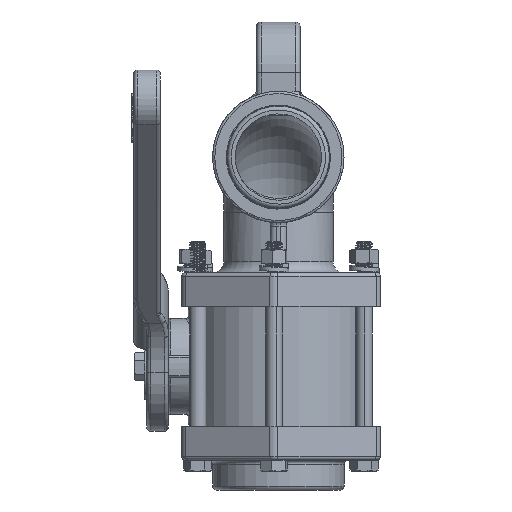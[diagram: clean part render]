
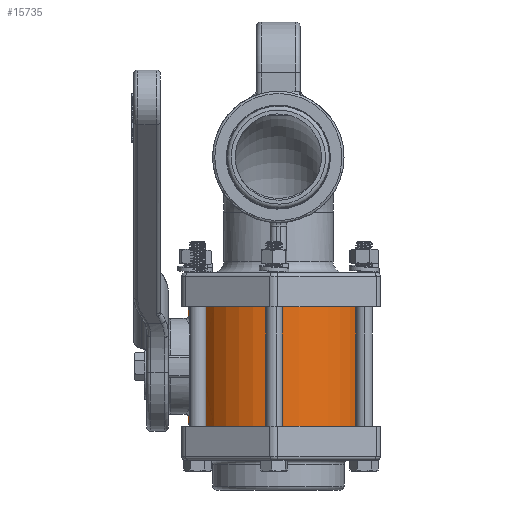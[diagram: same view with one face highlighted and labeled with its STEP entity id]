
A CAD part, front view. The second image highlights one B-rep face of the part: STEP entity #15735.
In plain terms, the highlighted cylindrical face has radius 52.222 mm (diameter 104.445 mm), a partial arc.
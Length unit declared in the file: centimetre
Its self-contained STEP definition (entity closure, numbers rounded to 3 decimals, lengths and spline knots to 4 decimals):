
#2859=B_SPLINE_CURVE_WITH_KNOTS('',3,(#21236,#21237,#21238,#21239,#21240,
#21241,#21242,#21243,#21244,#21245,#21246,#21247,#21248,#21249,#21250,#21251,
#21252,#21253,#21254,#21255,#21256,#21257,#21258,#21259,#21260,#21261),
 .UNSPECIFIED.,.T.,.U.,(4,2,2,2,2,2,2,2,2,2,2,2,4),(0.,0.6665,
1.7329,3.0771,4.7858,6.7271,7.8086,
8.89,10.412,12.469,14.4768,16.4365,
17.1601),.UNSPECIFIED.);
#2860=B_SPLINE_CURVE_WITH_KNOTS('',3,(#21263,#21264,#21265,#21266,#21267,
#21268,#21269,#21270,#21271,#21272,#21273,#21274,#21275,#21276,#21277,#21278,
#21279,#21280,#21281,#21282,#21283,#21284,#21285,#21286,#21287),
 .UNSPECIFIED.,.F.,.U.,(4,3,3,3,3,3,3,3,4),(0.4839,1.3329,
2.6255,3.4333,3.9383,4.4432,5.251,
6.5436,7.3927),.UNSPECIFIED.);
#2861=B_SPLINE_CURVE_WITH_KNOTS('',3,(#21292,#21293,#21294,#21295,#21296,
#21297,#21298,#21299,#21300,#21301,#21302,#21303,#21304,#21305,#21306,#21307,
#21308,#21309,#21310,#21311,#21312,#21313,#21314,#21315,#21316),
 .UNSPECIFIED.,.F.,.U.,(4,3,3,3,3,3,3,3,4),(0.4826,1.3325,2.6247,
3.4323,3.937,4.4417,5.2493,6.5415,
7.3914),.UNSPECIFIED.);
#5001=CYLINDRICAL_SURFACE('',#19529,5.2222);
#5242=VERTEX_POINT('',#21208);
#5244=VERTEX_POINT('',#21288);
#5245=VERTEX_POINT('',#21289);
#5246=VERTEX_POINT('',#21291);
#5247=VERTEX_POINT('',#21317);
#6656=CIRCLE('',#19530,5.2222);
#6657=CIRCLE('',#19531,5.2222);
#7262=EDGE_CURVE('',#5242,#5242,#2859,.F.);
#7263=EDGE_CURVE('',#5244,#5245,#2860,.T.);
#7264=EDGE_CURVE('',#5244,#5246,#6656,.T.);
#7265=EDGE_CURVE('',#5247,#5246,#2861,.T.);
#7266=EDGE_CURVE('',#5247,#5245,#6657,.T.);
#9458=ORIENTED_EDGE('',*,*,#7263,.F.);
#9459=ORIENTED_EDGE('',*,*,#7264,.T.);
#9460=ORIENTED_EDGE('',*,*,#7265,.F.);
#9461=ORIENTED_EDGE('',*,*,#7266,.T.);
#9462=ORIENTED_EDGE('',*,*,#7262,.F.);
#13708=EDGE_LOOP('',(#9458,#9459,#9460,#9461));
#13709=EDGE_LOOP('',(#9462));
#14721=FACE_BOUND('',#13708,.T.);
#14722=FACE_BOUND('',#13709,.T.);
#15735=ADVANCED_FACE('',(#14721,#14722),#5001,.T.);
#16668=DIRECTION('',(0.,0.,1.));
#16669=DIRECTION('',(5.222,0.,0.));
#16670=DIRECTION('',(0.,0.,1.));
#16671=DIRECTION('',(5.222,0.,0.));
#16672=DIRECTION('',(0.,0.,-1.));
#16673=DIRECTION('',(5.222,0.,0.));
#19529=AXIS2_PLACEMENT_3D('',#21262,#16668,#16669);
#19530=AXIS2_PLACEMENT_3D('',#21290,#16670,#16671);
#19531=AXIS2_PLACEMENT_3D('',#21318,#16672,#16673);
#21208=CARTESIAN_POINT('',(-2.8393,4.383,3.4544));
#21236=CARTESIAN_POINT('',(-2.8393,4.383,3.4544));
#21237=CARTESIAN_POINT('',(-2.8393,4.383,3.2136));
#21238=CARTESIAN_POINT('',(-2.8097,4.4025,2.9729));
#21239=CARTESIAN_POINT('',(-2.6615,4.4944,2.372));
#21240=CARTESIAN_POINT('',(-2.5005,4.5909,2.0275));
#21241=CARTESIAN_POINT('',(-2.0142,4.8276,1.3518));
#21242=CARTESIAN_POINT('',(-1.6548,4.972,1.0431));
#21243=CARTESIAN_POINT('',(-0.6985,5.2045,0.5705));
#21244=CARTESIAN_POINT('',(-0.0679,5.2554,0.4826));
#21245=CARTESIAN_POINT('',(1.1931,5.1286,0.7243));
#21246=CARTESIAN_POINT('',(1.7919,4.9267,1.0983));
#21247=CARTESIAN_POINT('',(2.441,4.6238,1.9215));
#21248=CARTESIAN_POINT('',(2.617,4.5209,2.2619));
#21249=CARTESIAN_POINT('',(2.8305,4.3904,3.0049));
#21250=CARTESIAN_POINT('',(2.8642,4.367,3.4029));
#21251=CARTESIAN_POINT('',(2.7584,4.4349,4.3355));
#21252=CARTESIAN_POINT('',(2.5442,4.5743,4.8494));
#21253=CARTESIAN_POINT('',(1.7895,4.9294,5.8226));
#21254=CARTESIAN_POINT('',(1.1376,5.1472,6.2203));
#21255=CARTESIAN_POINT('',(-0.2772,5.2618,6.4379));
#21256=CARTESIAN_POINT('',(-1.0132,5.158,6.2614));
#21257=CARTESIAN_POINT('',(-2.1428,4.7983,5.483));
#21258=CARTESIAN_POINT('',(-2.5553,4.5594,4.9037));
#21259=CARTESIAN_POINT('',(-2.8045,4.406,3.9767));
#21260=CARTESIAN_POINT('',(-2.8393,4.383,3.7158));
#21261=CARTESIAN_POINT('',(-2.8393,4.383,3.4544));
#21262=CARTESIAN_POINT('',(0.,0.,0.));
#21263=CARTESIAN_POINT('',(2.3922,-4.6421,0.));
#21264=CARTESIAN_POINT('',(2.3922,-4.6421,0.283));
#21265=CARTESIAN_POINT('',(2.3922,-4.6421,0.5661));
#21266=CARTESIAN_POINT('',(2.3922,-4.6421,0.8491));
#21267=CARTESIAN_POINT('',(2.3922,-4.6421,1.2799));
#21268=CARTESIAN_POINT('',(2.3922,-4.6421,1.7108));
#21269=CARTESIAN_POINT('',(2.3922,-4.6421,2.1416));
#21270=CARTESIAN_POINT('',(2.3922,-4.6421,2.4109));
#21271=CARTESIAN_POINT('',(2.3922,-4.6421,2.6802));
#21272=CARTESIAN_POINT('',(2.3922,-4.6421,2.9495));
#21273=CARTESIAN_POINT('',(2.3922,-4.6421,3.1178));
#21274=CARTESIAN_POINT('',(2.3922,-4.6421,3.2861));
#21275=CARTESIAN_POINT('',(2.3922,-4.6421,3.4544));
#21276=CARTESIAN_POINT('',(2.3922,-4.6421,3.6227));
#21277=CARTESIAN_POINT('',(2.3922,-4.6421,3.791));
#21278=CARTESIAN_POINT('',(2.3922,-4.6421,3.9593));
#21279=CARTESIAN_POINT('',(2.3922,-4.6421,4.2286));
#21280=CARTESIAN_POINT('',(2.3922,-4.6421,4.4979));
#21281=CARTESIAN_POINT('',(2.3922,-4.6421,4.7672));
#21282=CARTESIAN_POINT('',(2.3922,-4.6421,5.198));
#21283=CARTESIAN_POINT('',(2.3922,-4.6421,5.6289));
#21284=CARTESIAN_POINT('',(2.3922,-4.6421,6.0597));
#21285=CARTESIAN_POINT('',(2.3922,-4.6421,6.3427));
#21286=CARTESIAN_POINT('',(2.3922,-4.6421,6.6258));
#21287=CARTESIAN_POINT('',(2.3922,-4.6421,6.9088));
#21288=CARTESIAN_POINT('',(2.3922,-4.6421,0.));
#21289=CARTESIAN_POINT('',(2.3922,-4.6421,6.9088));
#21290=CARTESIAN_POINT('',(0.,0.,0.));
#21291=CARTESIAN_POINT('',(-2.3922,-4.6421,0.));
#21292=CARTESIAN_POINT('',(-2.3922,-4.6421,6.9088));
#21293=CARTESIAN_POINT('',(-2.3922,-4.6421,6.6255));
#21294=CARTESIAN_POINT('',(-2.3922,-4.6421,6.3422));
#21295=CARTESIAN_POINT('',(-2.3922,-4.6421,6.0589));
#21296=CARTESIAN_POINT('',(-2.3922,-4.6421,5.6282));
#21297=CARTESIAN_POINT('',(-2.3922,-4.6421,5.1974));
#21298=CARTESIAN_POINT('',(-2.3922,-4.6421,4.7667));
#21299=CARTESIAN_POINT('',(-2.3922,-4.6421,4.4975));
#21300=CARTESIAN_POINT('',(-2.3922,-4.6421,4.2283));
#21301=CARTESIAN_POINT('',(-2.3922,-4.6421,3.9591));
#21302=CARTESIAN_POINT('',(-2.3922,-4.6421,3.7909));
#21303=CARTESIAN_POINT('',(-2.3922,-4.6421,3.6226));
#21304=CARTESIAN_POINT('',(-2.3922,-4.6421,3.4544));
#21305=CARTESIAN_POINT('',(-2.3922,-4.6421,3.2862));
#21306=CARTESIAN_POINT('',(-2.3922,-4.6421,3.1179));
#21307=CARTESIAN_POINT('',(-2.3922,-4.6421,2.9497));
#21308=CARTESIAN_POINT('',(-2.3922,-4.6421,2.6805));
#21309=CARTESIAN_POINT('',(-2.3922,-4.6421,2.4113));
#21310=CARTESIAN_POINT('',(-2.3922,-4.6421,2.1421));
#21311=CARTESIAN_POINT('',(-2.3922,-4.6421,1.7114));
#21312=CARTESIAN_POINT('',(-2.3922,-4.6421,1.2806));
#21313=CARTESIAN_POINT('',(-2.3922,-4.6421,0.8499));
#21314=CARTESIAN_POINT('',(-2.3922,-4.6421,0.5666));
#21315=CARTESIAN_POINT('',(-2.3922,-4.6421,0.2833));
#21316=CARTESIAN_POINT('',(-2.3922,-4.6421,0.));
#21317=CARTESIAN_POINT('',(-2.3922,-4.6421,6.9088));
#21318=CARTESIAN_POINT('',(0.,0.,6.9088));
